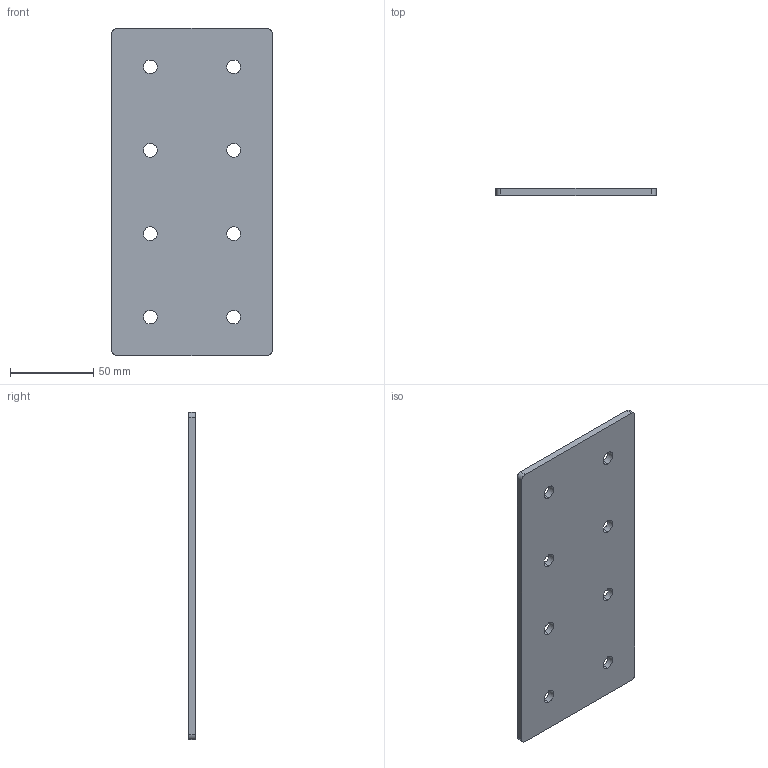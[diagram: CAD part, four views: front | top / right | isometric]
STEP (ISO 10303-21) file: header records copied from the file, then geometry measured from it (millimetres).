
FILE_DESCRIPTION (( 'STEP AP214' ), '1' );
FILE_NAME ('SNS.50.01.04 Ñîåäåíèòåëü_100õ200(X24).STEP', '2016-08-08T08:56:06', ( '' ), ( '' ), 'SwSTEP 2.0', 'SolidWorks 2016', '' );
FILE_SCHEMA (( 'AUTOMOTIVE_DESIGN' ));
Length unit declared in the file: millimetre
Products named in the file (2): SNS.50.01.04 Ñîåäåíèòåëü_100õ200(X24)
Bounding box: 96 x 4 x 196 mm (x, y, z)
Volume: 73543.2 mm3; surface area: 39911.3 mm2
Topology: 1 solids, 1 shells, 26 faces, 72 edges, 48 vertices
Faces by surface type: cylinder 20, plane 6
Entity records: 937 total; most frequent: DIRECTION 168, CARTESIAN_POINT 148, ORIENTED_EDGE 144, EDGE_CURVE 72, AXIS2_PLACEMENT_3D 68, VERTEX_POINT 48, EDGE_LOOP 42, CIRCLE 40
